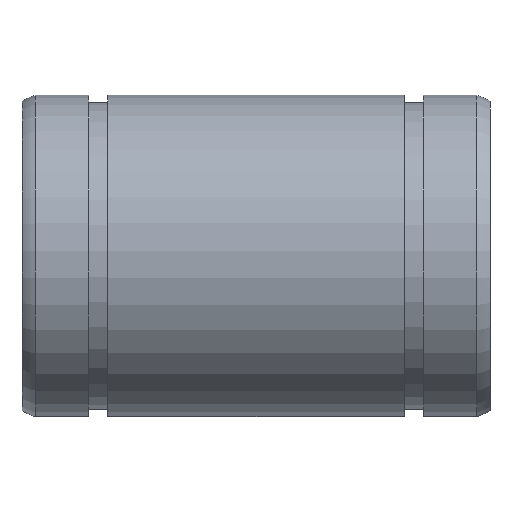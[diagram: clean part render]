
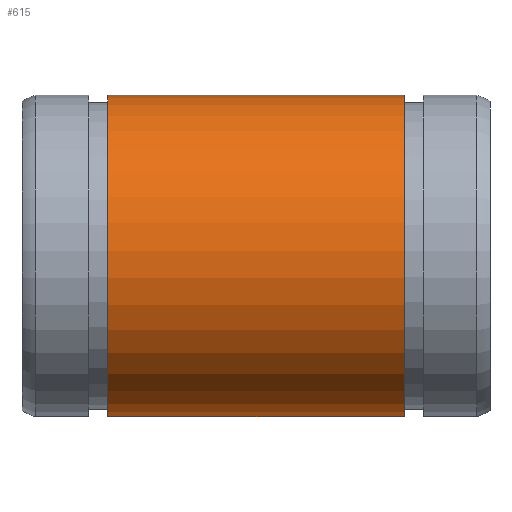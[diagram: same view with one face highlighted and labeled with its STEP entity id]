
A CAD part, front view. The second image highlights one B-rep face of the part: STEP entity #615.
In plain terms, the highlighted cylindrical face has radius 11 mm (diameter 22 mm), a partial arc.
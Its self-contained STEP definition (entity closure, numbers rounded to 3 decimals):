
#177=CARTESIAN_POINT('',(5.85,0.75,-10.974));
#178=VERTEX_POINT('',#177);
#185=CARTESIAN_POINT('',(26.15,0.75,-10.974));
#186=VERTEX_POINT('',#185);
#187=CARTESIAN_POINT('',(26.15,0.75,-10.974));
#188=DIRECTION('',(-1.0,0.0,0.0));
#189=VECTOR('',#188,20.3);
#190=LINE('',#187,#189);
#191=EDGE_CURVE('',#186,#178,#190,.T.);
#233=CARTESIAN_POINT('',(26.15,-0.75,-10.974));
#234=VERTEX_POINT('',#233);
#241=CARTESIAN_POINT('',(5.85,-0.75,-10.974));
#242=VERTEX_POINT('',#241);
#243=CARTESIAN_POINT('',(5.85,-0.75,-10.974));
#244=DIRECTION('',(1.0,0.0,0.0));
#245=VECTOR('',#244,20.3);
#246=LINE('',#243,#245);
#247=EDGE_CURVE('',#242,#234,#246,.T.);
#588=CARTESIAN_POINT('',(26.15,0.0,0.));
#589=DIRECTION('',(-1.0,0.0,0.0));
#590=DIRECTION('',(0.0,0.0,1.0));
#591=AXIS2_PLACEMENT_3D('',#588,#589,#590);
#592=CIRCLE('',#591,11.);
#593=EDGE_CURVE('',#234,#186,#592,.T.);
#598=CARTESIAN_POINT('',(16.,0.0,0.));
#599=DIRECTION('',(-1.0,0.0,0.));
#600=DIRECTION('',(0.0,0.0,1.0));
#601=AXIS2_PLACEMENT_3D('',#598,#599,#600);
#602=CYLINDRICAL_SURFACE('',#601,11.);
#603=ORIENTED_EDGE('',*,*,#247,.T.);
#604=ORIENTED_EDGE('',*,*,#593,.T.);
#605=ORIENTED_EDGE('',*,*,#191,.T.);
#606=CARTESIAN_POINT('',(5.85,0.0,0.));
#607=DIRECTION('',(-1.0,0.0,0.0));
#608=DIRECTION('',(0.0,0.0,1.0));
#609=AXIS2_PLACEMENT_3D('',#606,#607,#608);
#610=CIRCLE('',#609,11.);
#611=EDGE_CURVE('',#242,#178,#610,.T.);
#612=ORIENTED_EDGE('',*,*,#611,.F.);
#613=EDGE_LOOP('',(#603,#604,#605,#612));
#614=FACE_OUTER_BOUND('',#613,.T.);
#615=ADVANCED_FACE('',(#614),#602,.T.);
